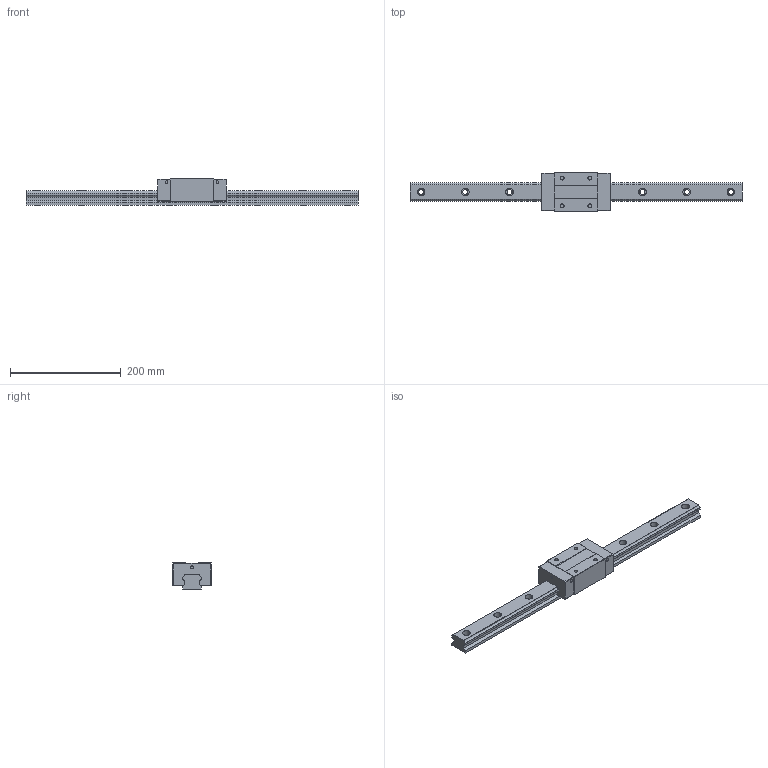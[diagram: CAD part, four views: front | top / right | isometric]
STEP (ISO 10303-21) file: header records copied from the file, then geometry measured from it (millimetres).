
FILE_DESCRIPTION (( 'STEP AP203' ), '1' );
FILE_NAME ('TRS35VN-SZ.STEP', '2024-07-11T08:46:33', ( '' ), ( '' ), 'SwSTEP 2.0', 'SolidWorks 2022', '' );
FILE_SCHEMA (( 'CONFIG_CONTROL_DESIGN' ));
Length unit declared in the file: millimetre
Products named in the file (1): TRS35VN-SZ
Bounding box: 600 x 70 x 48 mm (x, y, z)
Volume: 719896.6 mm3; surface area: 120517.3 mm2
Topology: 2 solids, 2 shells, 178 faces, 464 edges, 308 vertices
Faces by surface type: plane 90, cylinder 88
Entity records: 5619 total; most frequent: DIRECTION 998, CARTESIAN_POINT 951, ORIENTED_EDGE 928, EDGE_CURVE 464, AXIS2_PLACEMENT_3D 355, VERTEX_POINT 308, LINE 288, VECTOR 288
